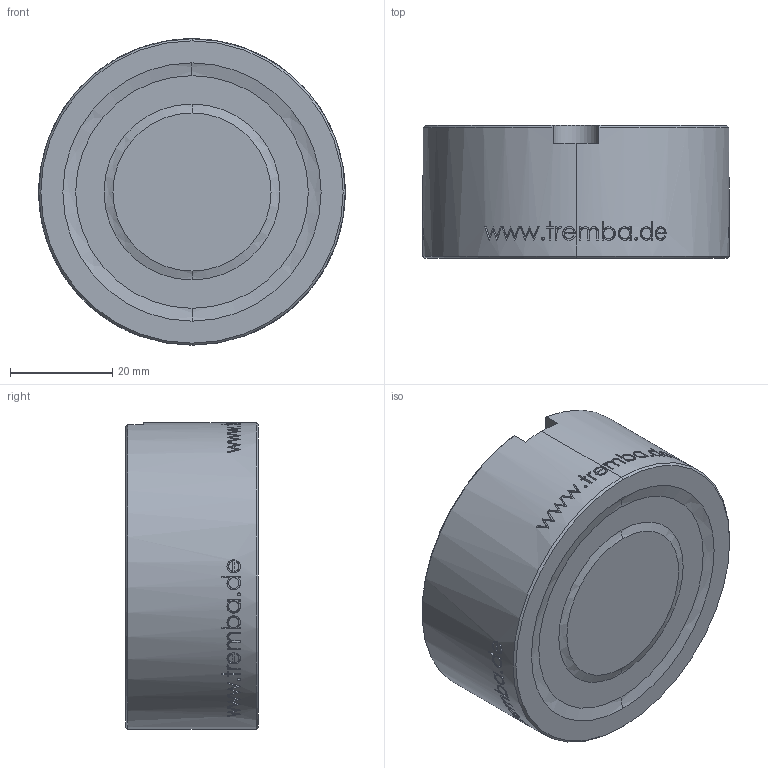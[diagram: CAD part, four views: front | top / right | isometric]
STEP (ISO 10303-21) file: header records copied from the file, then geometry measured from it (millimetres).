
FILE_DESCRIPTION (( 'STEP AP203' ), '1' );
FILE_NAME ('GTO-60-0.5000 - step - V01 - DSC.STEP', '2014-07-01T12:16:25', ( '' ), ( '' ), 'SwSTEP 2.0', 'SolidWorks 2012', '' );
FILE_SCHEMA (( 'CONFIG_CONTROL_DESIGN' ));
Products named in the file (1): GTO-60-0.5000 - step - V01 - DSC
Bounding box: 60 x 26 x 60 mm (x, y, z)
Volume: 71782.6 mm3; surface area: 11242.5 mm2
Topology: 1 solids, 1 shells, 558 faces, 1486 edges, 985 vertices
Faces by surface type: bspline 289, plane 194, cylinder 63, cone 12
Entity records: 45454 total; most frequent: CARTESIAN_POINT 33960, ORIENTED_EDGE 2964, EDGE_CURVE 1482, DIRECTION 1341, VERTEX_POINT 985, B_SPLINE_CURVE_WITH_KNOTS 939, EDGE_LOOP 617, ADVANCED_FACE 558
